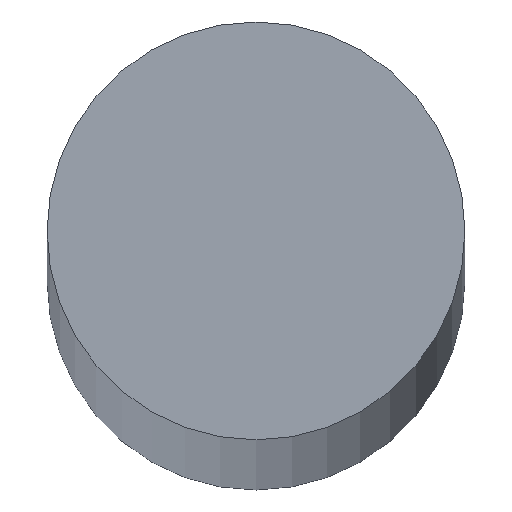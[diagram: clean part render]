
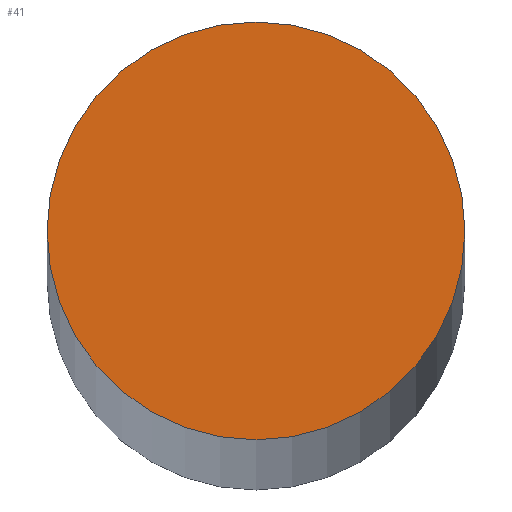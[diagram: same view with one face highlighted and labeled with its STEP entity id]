
A CAD part, top view. The second image highlights one B-rep face of the part: STEP entity #41.
In plain terms, the highlighted planar face has unit normal (0, 0, 1).
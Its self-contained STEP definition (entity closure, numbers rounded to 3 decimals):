
#16=PLANE('',#66);
#19=FACE_OUTER_BOUND('',#22,.T.);
#22=EDGE_LOOP('',(#37));
#25=CIRCLE('',#63,8.);
#27=VERTEX_POINT('',#82);
#29=EDGE_CURVE('',#27,#27,#25,.T.);
#37=ORIENTED_EDGE('',*,*,#29,.T.);
#41=ADVANCED_FACE('',(#19),#16,.T.);
#63=AXIS2_PLACEMENT_3D('',#83,#71,#72);
#66=AXIS2_PLACEMENT_3D('',#88,#78,#79);
#71=DIRECTION('center_axis',(0.,0.,1.));
#72=DIRECTION('ref_axis',(-1.,0.,0.));
#78=DIRECTION('center_axis',(0.,0.,1.));
#79=DIRECTION('ref_axis',(1.,0.,0.));
#82=CARTESIAN_POINT('',(8.,0.,1100.));
#83=CARTESIAN_POINT('Origin',(0.,0.,1100.));
#88=CARTESIAN_POINT('Origin',(0.,0.,
1100.));
